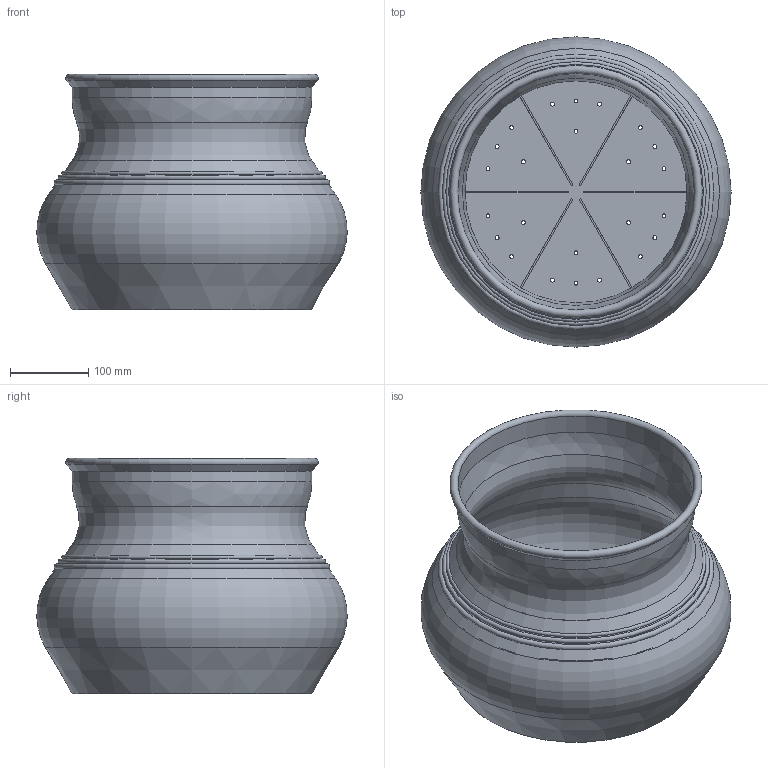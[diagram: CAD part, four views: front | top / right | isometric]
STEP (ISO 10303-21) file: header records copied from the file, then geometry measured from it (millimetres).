
FILE_DESCRIPTION(/* description */ (''),/* implementation_level */ '2;1');
FILE_NAME(/* name */ 'LR2406-S20-H300-D400_step.step',/* time_stamp */ '2024-02-01T11:02:30+01:00',/* author */ (''),/* organization */ (''),/* preprocessor_version */ 'ST-DEVELOPER v20',/* originating_system */ 'Autodesk Translation Framework v12.20.1.177',/* authorisation */ '');
FILE_SCHEMA (('AUTOMOTIVE_DESIGN { 1 0 10303 214 3 1 1 }'));
Length unit declared in the file: millimetre
Products named in the file (1): LR2406-S20-H300-D400
Bounding box: 395.89 x 395.89 x 300 mm (x, y, z)
Volume: 930208.4 mm3; surface area: 858560.5 mm2
Topology: 1 solids, 1 shells, 70 faces, 185 edges, 117 vertices
Faces by surface type: cylinder 32, plane 20, cone 8, torus 8, bspline 2
Full cylindrical faces by diameter (mm): 5 x24, 302 x1, 306 x1
Entity records: 2380 total; most frequent: DIRECTION 426, CARTESIAN_POINT 425, ORIENTED_EDGE 370, EDGE_CURVE 185, AXIS2_PLACEMENT_3D 172, EDGE_LOOP 118, VERTEX_POINT 117, CIRCLE 103
